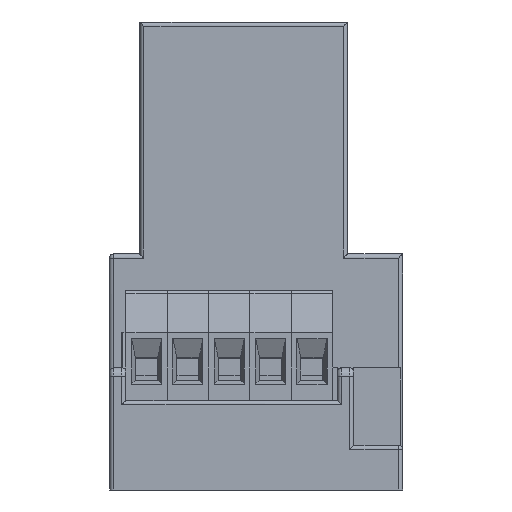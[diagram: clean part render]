
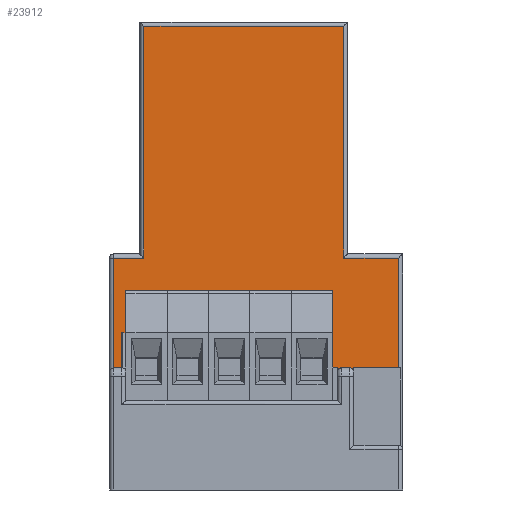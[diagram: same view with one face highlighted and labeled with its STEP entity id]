
A CAD part, front view. The second image highlights one B-rep face of the part: STEP entity #23912.
In plain terms, the highlighted planar face has unit normal (0, -1, 0).
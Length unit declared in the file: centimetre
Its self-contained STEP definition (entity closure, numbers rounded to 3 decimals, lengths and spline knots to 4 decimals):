
#4022=VERTEX_POINT('',#46108);
#4023=VERTEX_POINT('',#46110);
#4027=VERTEX_POINT('',#46120);
#4028=VERTEX_POINT('',#46123);
#4029=VERTEX_POINT('',#46127);
#4036=VERTEX_POINT('',#46149);
#4037=VERTEX_POINT('',#46151);
#4038=VERTEX_POINT('',#46243);
#4039=VERTEX_POINT('',#46247);
#4051=VERTEX_POINT('',#46293);
#4059=VERTEX_POINT('',#46315);
#4061=VERTEX_POINT('',#46324);
#4064=VERTEX_POINT('',#46332);
#4066=VERTEX_POINT('',#46338);
#4067=VERTEX_POINT('',#46340);
#4068=VERTEX_POINT('',#46344);
#4070=VERTEX_POINT('',#46350);
#4081=VERTEX_POINT('',#46396);
#6955=EDGE_CURVE('',#4023,#4022,#27266,.T.);
#6961=EDGE_CURVE('',#4022,#4027,#25579,.T.);
#6963=EDGE_CURVE('',#4028,#4027,#27273,.T.);
#6965=EDGE_CURVE('',#4029,#4028,#25580,.F.);
#6976=EDGE_CURVE('',#4037,#4036,#25588,.T.);
#6979=EDGE_CURVE('',#4038,#4036,#27279,.T.);
#6981=EDGE_CURVE('',#4039,#4038,#25589,.F.);
#7005=EDGE_CURVE('',#4039,#4051,#27296,.T.);
#7017=EDGE_CURVE('',#4037,#4059,#27300,.T.);
#7019=EDGE_CURVE('',#4059,#4061,#27302,.T.);
#7023=EDGE_CURVE('',#4061,#4064,#27305,.T.);
#7027=EDGE_CURVE('',#4066,#4067,#27307,.T.);
#7029=EDGE_CURVE('',#4068,#4066,#27308,.T.);
#7032=EDGE_CURVE('',#4070,#4068,#27310,.T.);
#7035=EDGE_CURVE('',#4064,#4070,#27312,.T.);
#7056=EDGE_CURVE('',#4051,#4023,#27328,.T.);
#7057=EDGE_CURVE('',#4029,#4081,#27329,.T.);
#7058=EDGE_CURVE('',#4081,#4067,#27328,.T.);
#11630=ORIENTED_EDGE('',*,*,#7027,.F.);
#11631=ORIENTED_EDGE('',*,*,#7029,.F.);
#11632=ORIENTED_EDGE('',*,*,#7032,.F.);
#11633=ORIENTED_EDGE('',*,*,#7035,.F.);
#11634=ORIENTED_EDGE('',*,*,#7023,.F.);
#11635=ORIENTED_EDGE('',*,*,#7019,.F.);
#11636=ORIENTED_EDGE('',*,*,#7017,.F.);
#11637=ORIENTED_EDGE('',*,*,#6976,.T.);
#11638=ORIENTED_EDGE('',*,*,#6979,.F.);
#11639=ORIENTED_EDGE('',*,*,#6981,.F.);
#11640=ORIENTED_EDGE('',*,*,#7005,.T.);
#11641=ORIENTED_EDGE('',*,*,#7056,.T.);
#11642=ORIENTED_EDGE('',*,*,#6955,.T.);
#11643=ORIENTED_EDGE('',*,*,#6961,.T.);
#11644=ORIENTED_EDGE('',*,*,#6963,.F.);
#11645=ORIENTED_EDGE('',*,*,#6965,.F.);
#11646=ORIENTED_EDGE('',*,*,#7057,.T.);
#11647=ORIENTED_EDGE('',*,*,#7058,.T.);
#20342=EDGE_LOOP('',(#11630,#11631,#11632,#11633,#11634,#11635,#11636,#11637,
#11638,#11639,#11640,#11641,#11642,#11643,#11644,#11645,#11646,#11647));
#22129=FACE_BOUND('',#20342,.T.);
#23912=ADVANCED_FACE('',(#22129),#37128,.T.);
#25579=CIRCLE('',#31455,0.05);
#25580=CIRCLE('',#31457,0.05);
#25588=CIRCLE('',#31469,0.05);
#25589=CIRCLE('',#31471,0.05);
#27266=LINE('',#46109,#34058);
#27273=LINE('',#46124,#34065);
#27279=LINE('',#46244,#34071);
#27296=LINE('',#46294,#34088);
#27300=LINE('',#46320,#34092);
#27302=LINE('',#46323,#34094);
#27305=LINE('',#46331,#34097);
#27307=LINE('',#46339,#34099);
#27308=LINE('',#46343,#34100);
#27310=LINE('',#46349,#34102);
#27312=LINE('',#46355,#34104);
#27328=LINE('',#46394,#34120);
#27329=LINE('',#46395,#34121);
#31455=AXIS2_PLACEMENT_3D('',#46121,#38791,#38792);
#31457=AXIS2_PLACEMENT_3D('',#46128,#38798,#38799);
#31469=AXIS2_PLACEMENT_3D('',#46150,#38823,#38824);
#31471=AXIS2_PLACEMENT_3D('',#46248,#38830,#38831);
#31528=AXIS2_PLACEMENT_3D('',#46393,#38988,$);
#34058=VECTOR('',#38783,1.);
#34065=VECTOR('',#38794,1.);
#34071=VECTOR('',#38826,1.);
#34088=VECTOR('',#38881,1.);
#34092=VECTOR('',#38910,1.);
#34094=VECTOR('',#38914,1.);
#34097=VECTOR('',#38921,1.);
#34099=VECTOR('',#38929,1.);
#34100=VECTOR('',#38934,1.);
#34102=VECTOR('',#38940,1.);
#34104=VECTOR('',#38946,1.);
#34120=VECTOR('',#38989,1.);
#34121=VECTOR('',#38990,1.);
#37128=PLANE('',#31528);
#38783=DIRECTION('',(0.,0.,-1.));
#38791=DIRECTION('',(0.,1.,0.));
#38792=DIRECTION('',(-0.035,0.,0.035));
#38794=DIRECTION('',(-1.,0.,0.));
#38798=DIRECTION('',(0.,1.,0.));
#38799=DIRECTION('',(0.035,0.,0.035));
#38823=DIRECTION('',(0.,1.,0.));
#38824=DIRECTION('',(-0.035,0.,0.035));
#38826=DIRECTION('',(-1.,0.,0.));
#38830=DIRECTION('',(0.,1.,0.));
#38831=DIRECTION('',(0.035,0.,0.035));
#38881=DIRECTION('',(0.,0.,1.));
#38910=DIRECTION('',(0.,0.,1.));
#38914=DIRECTION('',(1.,0.,0.));
#38921=DIRECTION('',(0.,0.,1.));
#38929=DIRECTION('',(0.,0.,-1.));
#38934=DIRECTION('',(1.,0.,0.));
#38940=DIRECTION('',(0.,0.,-1.));
#38946=DIRECTION('',(1.,0.,0.));
#38988=DIRECTION('',(0.,-1.,0.));
#38989=DIRECTION('',(1.,0.,0.));
#38990=DIRECTION('',(0.,0.,1.));
#46108=CARTESIAN_POINT('',(-0.8,0.9966,1.45));
#46109=CARTESIAN_POINT('',(-0.8,0.9966,1.3));
#46110=CARTESIAN_POINT('',(-0.8,0.9966,1.5));
#46120=CARTESIAN_POINT('',(-0.75,0.9966,1.5));
#46121=CARTESIAN_POINT('',(-0.75,0.9966,1.45));
#46123=CARTESIAN_POINT('',(-0.65,0.9966,1.5));
#46124=CARTESIAN_POINT('',(-1.7838,0.9966,1.5));
#46127=CARTESIAN_POINT('',(-0.6,0.9966,1.45));
#46128=CARTESIAN_POINT('',(-0.65,0.9966,1.45));
#46149=CARTESIAN_POINT('',(-3.55,0.9966,1.5));
#46150=CARTESIAN_POINT('',(-3.55,0.9966,1.45));
#46151=CARTESIAN_POINT('',(-3.5536,0.9966,1.4999));
#46243=CARTESIAN_POINT('',(-3.45,0.9966,1.5));
#46244=CARTESIAN_POINT('',(-1.7838,0.9966,1.5));
#46247=CARTESIAN_POINT('',(-3.4,0.9966,1.45));
#46248=CARTESIAN_POINT('',(-3.45,0.9966,1.45));
#46293=CARTESIAN_POINT('',(-3.4,0.9966,1.5));
#46294=CARTESIAN_POINT('',(-3.4,0.9966,1.3));
#46315=CARTESIAN_POINT('',(-3.5536,0.9966,2.85));
#46320=CARTESIAN_POINT('',(-3.5536,0.9966,1.5));
#46323=CARTESIAN_POINT('',(-1.8018,0.9966,2.85));
#46324=CARTESIAN_POINT('',(-3.1786,0.9966,2.85));
#46331=CARTESIAN_POINT('',(-3.1786,0.9966,2.2));
#46332=CARTESIAN_POINT('',(-3.1786,0.9966,5.7));
#46338=CARTESIAN_POINT('',(-0.05,0.9966,2.85));
#46339=CARTESIAN_POINT('',(-0.05,0.9966,0.75));
#46340=CARTESIAN_POINT('',(-0.05,0.9966,1.5));
#46343=CARTESIAN_POINT('',(-1.8018,0.9966,2.85));
#46344=CARTESIAN_POINT('',(-0.725,0.9966,2.85));
#46349=CARTESIAN_POINT('',(-0.725,0.9966,2.2));
#46350=CARTESIAN_POINT('',(-0.725,0.9966,5.7));
#46355=CARTESIAN_POINT('',(-1.8768,0.9966,5.7));
#46393=CARTESIAN_POINT('',(-1.8018,0.9966,1.5));
#46394=CARTESIAN_POINT('',(-3.6036,0.9966,1.5));
#46395=CARTESIAN_POINT('',(-0.6,0.9966,1.025));
#46396=CARTESIAN_POINT('',(-0.6,0.9966,1.5));
